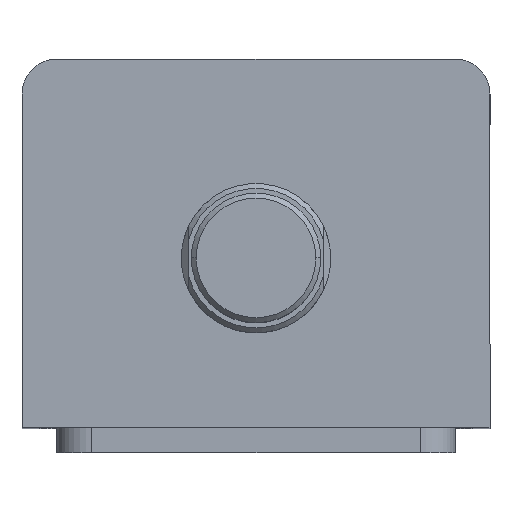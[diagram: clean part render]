
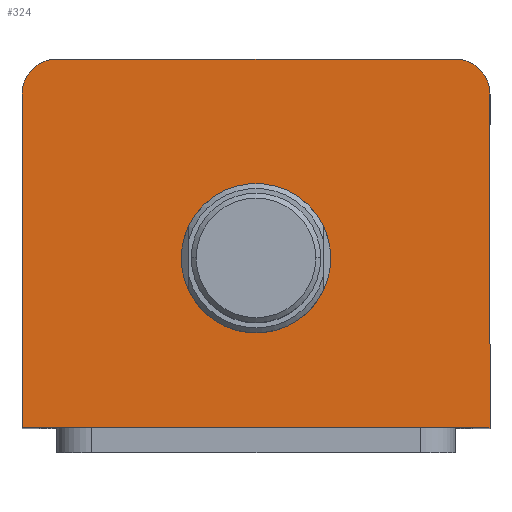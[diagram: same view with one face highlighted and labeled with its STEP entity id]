
A CAD part, top view. The second image highlights one B-rep face of the part: STEP entity #324.
In plain terms, the highlighted planar face has unit normal (0, 0, 1).
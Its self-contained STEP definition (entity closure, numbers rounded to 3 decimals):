
#94 = ORIENTED_EDGE ( 'NONE', *, *, #1783, .F. ) ;
#95 = ORIENTED_EDGE ( 'NONE', *, *, #3089, .T. ) ;
#96 = ORIENTED_EDGE ( 'NONE', *, *, #3006, .F. ) ;
#248 = ORIENTED_EDGE ( 'NONE', *, *, #3075, .T. ) ;
#293 = ORIENTED_EDGE ( 'NONE', *, *, #3023, .T. ) ;
#304 = ORIENTED_EDGE ( 'NONE', *, *, #3045, .T. ) ;
#324 = ADVANCED_FACE ( 'NONE', ( #1122, #1129 ), #1614, .T. ) ;
#396 = ORIENTED_EDGE ( 'NONE', *, *, #1827, .T. ) ;
#397 = ORIENTED_EDGE ( 'NONE', *, *, #3079, .T. ) ;
#478 = EDGE_LOOP ( 'NONE', ( #94, #96 ) ) ;
#482 = EDGE_LOOP ( 'NONE', ( #304, #95, #396, #293, #248, #397 ) ) ;
#590 = VERTEX_POINT ( 'NONE', #1594 ) ;
#595 = VERTEX_POINT ( 'NONE', #1589 ) ;
#596 = VERTEX_POINT ( 'NONE', #1588 ) ;
#599 = VERTEX_POINT ( 'NONE', #1585 ) ;
#603 = VERTEX_POINT ( 'NONE', #1581 ) ;
#615 = VERTEX_POINT ( 'NONE', #1552 ) ;
#638 = VERTEX_POINT ( 'NONE', #1483 ) ;
#716 = AXIS2_PLACEMENT_3D ( 'NONE', #2706, #2703, #2702 ) ;
#751 = AXIS2_PLACEMENT_3D ( 'NONE', #2834, #2832, #2831 ) ;
#854 = AXIS2_PLACEMENT_3D ( 'NONE', #2660, #2657, #2656 ) ;
#933 = CARTESIAN_POINT ( 'NONE',  ( -47., 37., 115. ) ) ;
#949 = DIRECTION ( 'NONE',  ( 0., -1., 0. ) ) ;
#1011 = CARTESIAN_POINT ( 'NONE',  ( -47., 30., 115. ) ) ;
#1084 = VERTEX_POINT ( 'NONE', #1011 ) ;
#1122 = FACE_BOUND ( 'NONE', #478, .T. ) ;
#1129 = FACE_OUTER_BOUND ( 'NONE', #482, .T. ) ;
#1241 = DIRECTION ( 'NONE',  ( 1., 0., 0. ) ) ;
#1243 = DIRECTION ( 'NONE',  ( 0., 0., 1. ) ) ;
#1244 = CIRCLE ( 'NONE', #1668, 15. ) ;
#1247 = CARTESIAN_POINT ( 'NONE',  ( 0., -3., 115. ) ) ;
#1343 = LINE ( 'NONE', #933, #1346 ) ;
#1346 = VECTOR ( 'NONE', #949, 1000. ) ;
#1483 = CARTESIAN_POINT ( 'NONE',  ( 47., 30., 115. ) ) ;
#1552 = CARTESIAN_POINT ( 'NONE',  ( -15., -3., 115. ) ) ;
#1581 = CARTESIAN_POINT ( 'NONE',  ( -47., -37., 115. ) ) ;
#1585 = CARTESIAN_POINT ( 'NONE',  ( 40., 37., 115. ) ) ;
#1588 = CARTESIAN_POINT ( 'NONE',  ( 15., -3., 115. ) ) ;
#1589 = CARTESIAN_POINT ( 'NONE',  ( -40., 37., 115. ) ) ;
#1594 = CARTESIAN_POINT ( 'NONE',  ( 47., -37., 115. ) ) ;
#1607 = DIRECTION ( 'NONE',  ( 1., 0., 0. ) ) ;
#1608 = DIRECTION ( 'NONE',  ( 0., 0., 1. ) ) ;
#1614 = PLANE ( 'NONE',  #1896 ) ;
#1615 = CARTESIAN_POINT ( 'NONE',  ( 0., 0., 115. ) ) ;
#1668 = AXIS2_PLACEMENT_3D ( 'NONE', #1247, #1243, #1241 ) ;
#1783 = EDGE_CURVE ( 'NONE', #596, #615, #1244, .T. ) ;
#1827 = EDGE_CURVE ( 'NONE', #1084, #603, #1343, .T. ) ;
#1896 = AXIS2_PLACEMENT_3D ( 'NONE', #1615, #1608, #1607 ) ;
#1953 = CIRCLE ( 'NONE', #751, 15. ) ;
#1975 = LINE ( 'NONE', #2762, #1980 ) ;
#1980 = VECTOR ( 'NONE', #2767, 1000. ) ;
#2017 = LINE ( 'NONE', #2610, #2020 ) ;
#2020 = VECTOR ( 'NONE', #2602, 1000. ) ;
#2070 = LINE ( 'NONE', #2658, #2073 ) ;
#2073 = VECTOR ( 'NONE', #2655, 1000. ) ;
#2074 = CIRCLE ( 'NONE', #716, 7. ) ;
#2087 = CIRCLE ( 'NONE', #854, 7. ) ;
#2602 = DIRECTION ( 'NONE',  ( -1., 0., 0. ) ) ;
#2610 = CARTESIAN_POINT ( 'NONE',  ( -47., 37., 115. ) ) ;
#2655 = DIRECTION ( 'NONE',  ( 0., 1., 0. ) ) ;
#2656 = DIRECTION ( 'NONE',  ( 1., 0., 0. ) ) ;
#2657 = DIRECTION ( 'NONE',  ( 0., 0., 1. ) ) ;
#2658 = CARTESIAN_POINT ( 'NONE',  ( 47., 37., 115. ) ) ;
#2660 = CARTESIAN_POINT ( 'NONE',  ( -40., 30., 115. ) ) ;
#2702 = DIRECTION ( 'NONE',  ( 1., 0., 0. ) ) ;
#2703 = DIRECTION ( 'NONE',  ( 0., 0., 1. ) ) ;
#2706 = CARTESIAN_POINT ( 'NONE',  ( 40., 30., 115. ) ) ;
#2762 = CARTESIAN_POINT ( 'NONE',  ( -47., -37., 115. ) ) ;
#2767 = DIRECTION ( 'NONE',  ( 1., 0., 0. ) ) ;
#2831 = DIRECTION ( 'NONE',  ( 1., 0., 0. ) ) ;
#2832 = DIRECTION ( 'NONE',  ( 0., 0., 1. ) ) ;
#2834 = CARTESIAN_POINT ( 'NONE',  ( 0., -3., 115. ) ) ;
#3006 = EDGE_CURVE ( 'NONE', #615, #596, #1953, .T. ) ;
#3023 = EDGE_CURVE ( 'NONE', #603, #590, #1975, .T. ) ;
#3045 = EDGE_CURVE ( 'NONE', #599, #595, #2017, .T. ) ;
#3075 = EDGE_CURVE ( 'NONE', #590, #638, #2070, .T. ) ;
#3079 = EDGE_CURVE ( 'NONE', #638, #599, #2074, .T. ) ;
#3089 = EDGE_CURVE ( 'NONE', #595, #1084, #2087, .T. ) ;
